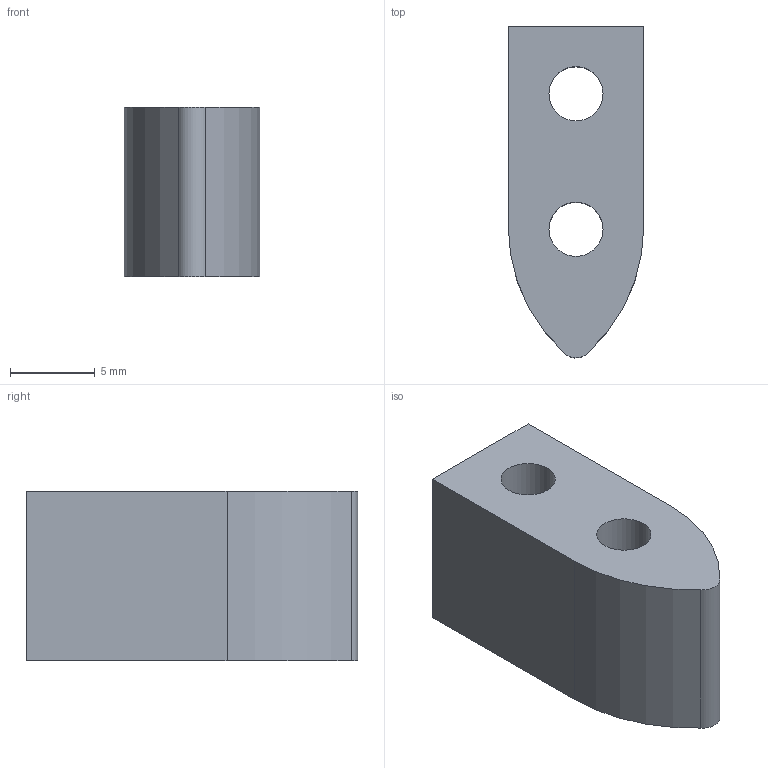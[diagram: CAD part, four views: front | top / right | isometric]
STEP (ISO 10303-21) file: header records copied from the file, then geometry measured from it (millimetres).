
FILE_DESCRIPTION(/* description */ (''),/* implementation_level */ '2;1');
FILE_NAME(/* name */ '1-13-2 Rear spoiler adapter.step',/* time_stamp */ '2025-05-10T21:34:10+02:00',/* author */ (''),/* organization */ (''),/* preprocessor_version */ 'ST-DEVELOPER v20.1',/* originating_system */ 'Autodesk Translation Framework v14.4.0.0',/* authorisation */ '');
FILE_SCHEMA (('AUTOMOTIVE_DESIGN { 1 0 10303 214 3 1 1 }'));
Length unit declared in the file: millimetre
Products named in the file (1): 1-13-2
Bounding box: 8 x 19.58 x 10 mm (x, y, z)
Volume: 1233.9 mm3; surface area: 948.1 mm2
Topology: 1 solids, 1 shells, 10 faces, 24 edges, 16 vertices
Faces by surface type: cylinder 5, plane 5
Full cylindrical faces by diameter (mm): 3.2 x2
Entity records: 346 total; most frequent: DIRECTION 56, CARTESIAN_POINT 51, ORIENTED_EDGE 48, EDGE_CURVE 24, AXIS2_PLACEMENT_3D 21, VERTEX_POINT 16, EDGE_LOOP 14, LINE 14
